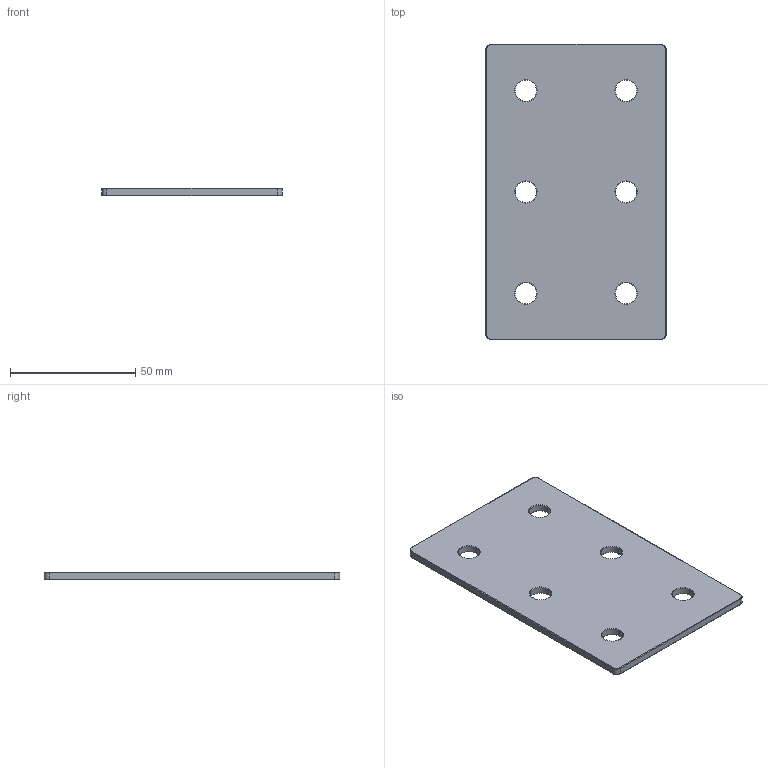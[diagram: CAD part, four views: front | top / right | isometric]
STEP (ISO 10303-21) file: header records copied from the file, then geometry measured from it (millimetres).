
FILE_DESCRIPTION (( 'STEP AP203' ), '1' );
FILE_NAME ('CE-CPR-40 す醱蟀諉啣.STEP', '2015-08-28T09:44:04', ( '' ), ( '' ), 'SwSTEP 2.0', 'SolidWorks 2013', '' );
FILE_SCHEMA (( 'CONFIG_CONTROL_DESIGN' ));
Length unit declared in the file: millimetre
Products named in the file (1): CE-CPR-40 す醱蟀諉啣
Bounding box: 72 x 118 x 3 mm (x, y, z)
Volume: 24447 mm3; surface area: 17822.6 mm2
Topology: 1 solids, 1 shells, 62 faces, 140 edges, 80 vertices
Faces by surface type: torus 32, cylinder 24, plane 6
Entity records: 1849 total; most frequent: DIRECTION 370, CARTESIAN_POINT 283, ORIENTED_EDGE 280, AXIS2_PLACEMENT_3D 167, EDGE_CURVE 140, CIRCLE 104, VERTEX_POINT 80, EDGE_LOOP 74
